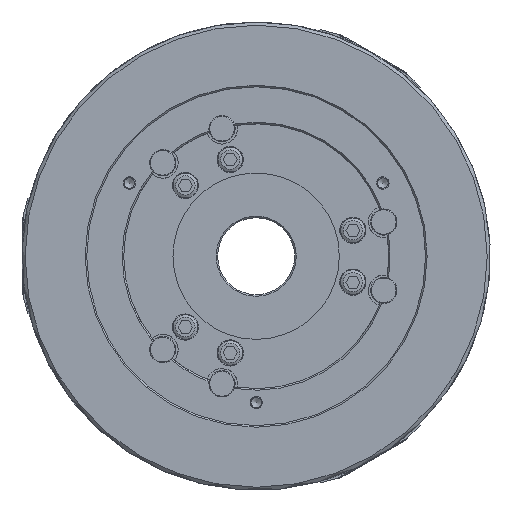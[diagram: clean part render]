
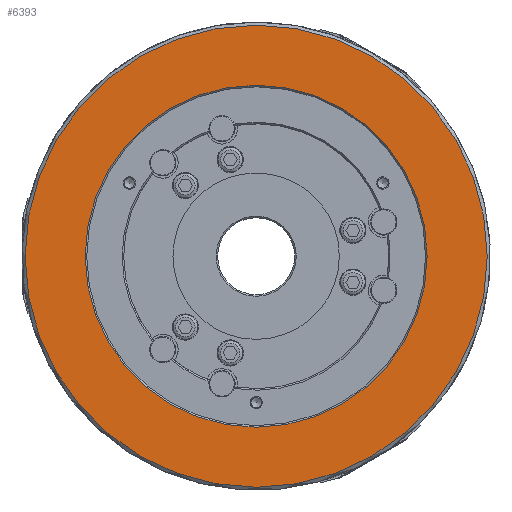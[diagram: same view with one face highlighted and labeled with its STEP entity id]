
A CAD part, left-side view. The second image highlights one B-rep face of the part: STEP entity #6393.
In plain terms, the highlighted planar face has unit normal (-1, 0, 0).
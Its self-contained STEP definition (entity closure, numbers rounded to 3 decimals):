
#522 = CIRCLE ( 'NONE', #90629, 111. ) ;
#6393 = ADVANCED_FACE ( 'NONE', ( #85914, #27867 ), #71588, .T. ) ;
#11184 = EDGE_CURVE ( 'NONE', #57272, #57272, #23513, .T. ) ;
#11401 = DIRECTION ( 'NONE',  ( 0., 0., 1. ) ) ;
#12279 = ORIENTED_EDGE ( 'NONE', *, *, #11184, .T. ) ;
#15778 = DIRECTION ( 'NONE',  ( -1., 0., 0. ) ) ;
#22077 = DIRECTION ( 'NONE',  ( 1., 0., 0. ) ) ;
#23513 = CIRCLE ( 'NONE', #82012, 150. ) ;
#27867 = FACE_OUTER_BOUND ( 'NONE', #97995, .T. ) ;
#37866 = CARTESIAN_POINT ( 'NONE',  ( -110., 0., 111. ) ) ;
#41638 = CARTESIAN_POINT ( 'NONE',  ( -110., 76., -131.636 ) ) ;
#50770 = CARTESIAN_POINT ( 'NONE',  ( -110., 0., 150. ) ) ;
#56763 = DIRECTION ( 'NONE',  ( -1., 0., 0. ) ) ;
#57272 = VERTEX_POINT ( 'NONE', #50770 ) ;
#58798 = AXIS2_PLACEMENT_3D ( 'NONE', #41638, #56763, #11401 ) ;
#61118 = CARTESIAN_POINT ( 'NONE',  ( -110., 0., 0. ) ) ;
#61786 = EDGE_CURVE ( 'NONE', #74841, #74841, #522, .T. ) ;
#67374 = CARTESIAN_POINT ( 'NONE',  ( -110., 0., 0. ) ) ;
#67387 = EDGE_LOOP ( 'NONE', ( #81832 ) ) ;
#68684 = DIRECTION ( 'NONE',  ( 0., 0., 1. ) ) ;
#71588 = PLANE ( 'NONE',  #58798 ) ;
#74841 = VERTEX_POINT ( 'NONE', #37866 ) ;
#74956 = DIRECTION ( 'NONE',  ( 0., 0., 1. ) ) ;
#81832 = ORIENTED_EDGE ( 'NONE', *, *, #61786, .T. ) ;
#82012 = AXIS2_PLACEMENT_3D ( 'NONE', #61118, #15778, #68684 ) ;
#85914 = FACE_BOUND ( 'NONE', #67387, .T. ) ;
#90629 = AXIS2_PLACEMENT_3D ( 'NONE', #67374, #22077, #74956 ) ;
#97995 = EDGE_LOOP ( 'NONE', ( #12279 ) ) ;
